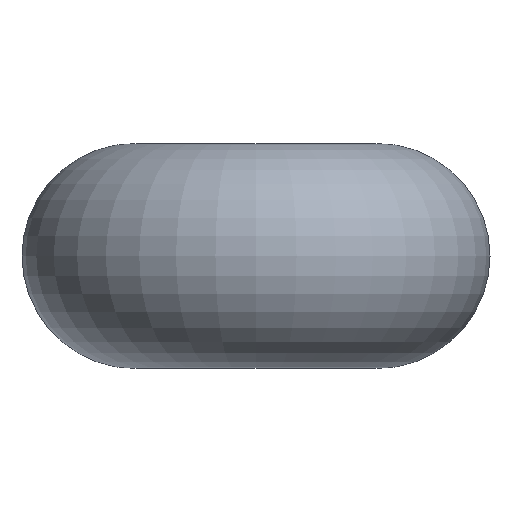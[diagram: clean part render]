
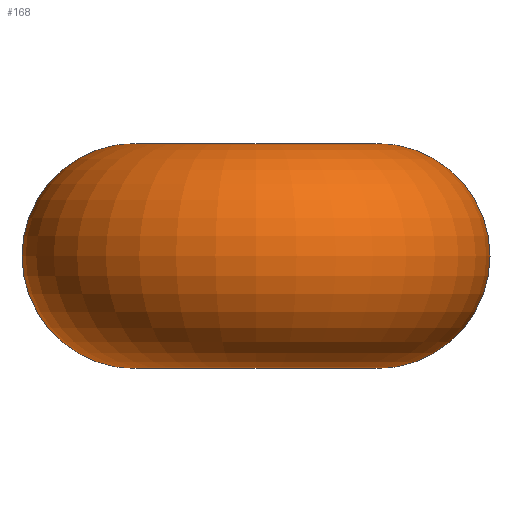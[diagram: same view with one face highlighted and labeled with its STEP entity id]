
A CAD part, left-side view. The second image highlights one B-rep face of the part: STEP entity #168.
In plain terms, the highlighted toroidal (fillet/blend) face has major radius 2 mm and minor radius 1.85 mm.
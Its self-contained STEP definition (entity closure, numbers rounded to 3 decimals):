
#1 = DIRECTION ( 'NONE',  ( 0.648, -0.762, 0. ) ) ;
#2 = DIRECTION ( 'NONE',  ( 0., 0., -1. ) ) ;
#14 = ORIENTED_EDGE ( 'NONE', *, *, #49, .F. ) ;
#15 = ORIENTED_EDGE ( 'NONE', *, *, #167, .T. ) ;
#16 = ORIENTED_EDGE ( 'NONE', *, *, #122, .T. ) ;
#17 = ORIENTED_EDGE ( 'NONE', *, *, #67, .T. ) ;
#18 = ORIENTED_EDGE ( 'NONE', *, *, #164, .F. ) ;
#19 = ORIENTED_EDGE ( 'NONE', *, *, #20, .F. ) ;
#20 = EDGE_CURVE ( 'NONE', #51, #162, #35, .T. ) ;
#29 = CARTESIAN_POINT ( 'NONE',  ( 1.524, 1.295, 0. ) ) ;
#30 = AXIS2_PLACEMENT_3D ( 'NONE', #29, #1, #2 ) ;
#31 = CIRCLE ( 'NONE', #30, 1.85 ) ;
#32 = DIRECTION ( 'NONE',  ( 0., 0., -1. ) ) ;
#33 = DIRECTION ( 'NONE',  ( 0.648, -0.762, 0. ) ) ;
#34 = AXIS2_PLACEMENT_3D ( 'NONE', #40, #33, #32 ) ;
#35 = CIRCLE ( 'NONE', #34, 1.85 ) ;
#40 = CARTESIAN_POINT ( 'NONE',  ( 1.524, 1.295, 0. ) ) ;
#49 = EDGE_CURVE ( 'NONE', #50, #51, #31, .T. ) ;
#50 = VERTEX_POINT ( 'NONE', #186 ) ;
#51 = VERTEX_POINT ( 'NONE', #205 ) ;
#67 = EDGE_CURVE ( 'NONE', #73, #74, #207, .T. ) ;
#73 = VERTEX_POINT ( 'NONE', #251 ) ;
#74 = VERTEX_POINT ( 'NONE', #250 ) ;
#122 = EDGE_CURVE ( 'NONE', #150, #73, #297, .T. ) ;
#150 = VERTEX_POINT ( 'NONE', #385 ) ;
#162 = VERTEX_POINT ( 'NONE', #316 ) ;
#164 = EDGE_CURVE ( 'NONE', #162, #74, #314, .T. ) ;
#167 = EDGE_CURVE ( 'NONE', #50, #150, #371, .T. ) ;
#168 = ADVANCED_FACE ( 'NONE', ( #367 ), #366, .T. ) ;
#169 = EDGE_LOOP ( 'NONE', ( #14, #15, #16, #17, #18, #19 ) ) ;
#186 = CARTESIAN_POINT ( 'NONE',  ( 1.524, 1.295, -1.85 ) ) ;
#205 = CARTESIAN_POINT ( 'NONE',  ( 2.934, 2.493, 0. ) ) ;
#206 = AXIS2_PLACEMENT_3D ( 'NONE', #248, #247, #246 ) ;
#207 = CIRCLE ( 'NONE', #206, 1.85 ) ;
#246 = DIRECTION ( 'NONE',  ( 0., 0., -1. ) ) ;
#247 = DIRECTION ( 'NONE',  ( -0.648, -0.762, 0. ) ) ;
#248 = CARTESIAN_POINT ( 'NONE',  ( 1.524, -1.295, 0. ) ) ;
#250 = CARTESIAN_POINT ( 'NONE',  ( 1.524, -1.295, 1.85 ) ) ;
#251 = CARTESIAN_POINT ( 'NONE',  ( 2.934, -2.493, 0. ) ) ;
#293 = DIRECTION ( 'NONE',  ( 0., 0., -1. ) ) ;
#294 = DIRECTION ( 'NONE',  ( -0.648, -0.762, 0. ) ) ;
#295 = CARTESIAN_POINT ( 'NONE',  ( 1.524, -1.295, 0. ) ) ;
#296 = AXIS2_PLACEMENT_3D ( 'NONE', #295, #294, #293 ) ;
#297 = CIRCLE ( 'NONE', #296, 1.85 ) ;
#310 = DIRECTION ( 'NONE',  ( 1., 0., 0. ) ) ;
#311 = DIRECTION ( 'NONE',  ( 0., 0., 1. ) ) ;
#312 = CARTESIAN_POINT ( 'NONE',  ( 0., 0., 1.85 ) ) ;
#313 = AXIS2_PLACEMENT_3D ( 'NONE', #312, #311, #310 ) ;
#314 = CIRCLE ( 'NONE', #313, 2. ) ;
#315 = CARTESIAN_POINT ( 'NONE',  ( 0., 0., -1.85 ) ) ;
#316 = CARTESIAN_POINT ( 'NONE',  ( 1.524, 1.295, 1.85 ) ) ;
#362 = DIRECTION ( 'NONE',  ( 1., 0., 0. ) ) ;
#363 = DIRECTION ( 'NONE',  ( 0., 0., 1. ) ) ;
#364 = AXIS2_PLACEMENT_3D ( 'NONE', #365, #363, #362 ) ;
#365 = CARTESIAN_POINT ( 'NONE',  ( 0., 0., 0. ) ) ;
#366 = TOROIDAL_SURFACE ( 'NONE', #364, 2., 1.85 ) ;
#367 = FACE_OUTER_BOUND ( 'NONE', #169, .T. ) ;
#368 = DIRECTION ( 'NONE',  ( 1., 0., 0. ) ) ;
#369 = DIRECTION ( 'NONE',  ( 0., 0., 1. ) ) ;
#370 = AXIS2_PLACEMENT_3D ( 'NONE', #315, #369, #368 ) ;
#371 = CIRCLE ( 'NONE', #370, 2. ) ;
#385 = CARTESIAN_POINT ( 'NONE',  ( 1.524, -1.295, -1.85 ) ) ;
